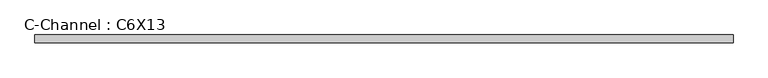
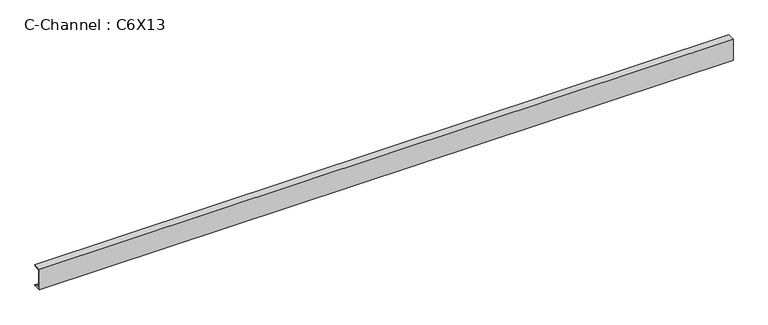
"""IFC4 building model written with IfcOpenShell, lengths in millimetres: beam geometry, C-Channel : C6X13."""

from ifc_helpers import new_model, si_unit, point, frame, frame_2d, origin, place, context, project, spatial, polyline, circle_curve, trimmed, segment, composite_curve, outline, extrude, source, transform, mapped, element, save


def c_channel_c6x13_61d3db65(model_context):
    return source(origin(), model_context, "Body", "SweptSolid", [
        extrude(outline(composite_curve([segment(polyline([(-13.0556, 76.2), (41.8084, 76.2)]), True, "CONTINUOUS"), segment(trimmed(circle_curve(frame_2d((33.0962, 76.2)), 8.7122), [point((41.8084, 76.2))], [point((33.0962, 67.4878))], False, "CARTESIAN"), True, "CONTINUOUS"), segment(polyline([(33.0962, 67.4878), (-1.9558, 61.9361086), (-1.9558, -61.9361086), (33.0962, -67.4878)]), True, "CONTINUOUS"), segment(trimmed(circle_curve(frame_2d((33.0962, -76.2)), 8.7122), [point((33.0962, -67.4878))], [point((41.8084, -76.2))], False, "CARTESIAN"), True, "CONTINUOUS"), segment(polyline([(41.8084, -76.2), (-13.0556, -76.2), (-13.0556, 76.2)]), True, "CONTINUOUS")], self_intersect=False)), frame((-2415.6661713, 0.0, 0.0), z_axis=(1.0, 0.0, 0.0), x_axis=(0.0, 1.0, 0.0)), (0.0, 0.0, 1.0), 4831.3371053),
    ])


if __name__ == "__main__":
    model = new_model("IFC4")
    model_context = context("Model", 3, world=origin())
    ifc_project = project(units=[si_unit("LENGTHUNIT", "METRE", prefix="MILLI")], contexts=[model_context])
    site = spatial("IfcSite", under=ifc_project)
    building = spatial("IfcBuilding", under=site)
    placement = place(None, origin())
    c_channel_c6x13_shape = c_channel_c6x13_61d3db65(model_context)
    element("IfcBeam", 1, ObjectType="C-Channel : C6X13", at=placement, inside=building, context=model_context, shape_type="MappedRepresentation", body=[
        mapped(c_channel_c6x13_shape, transform((0.0, 0.0, 0.0), x_axis=(1.0, 0.0, 0.0), y_axis=(0.0, 1.0, 0.0), z_axis=(0.0, 0.0, 1.0))),
    ])
    save(model, "model.ifc")
